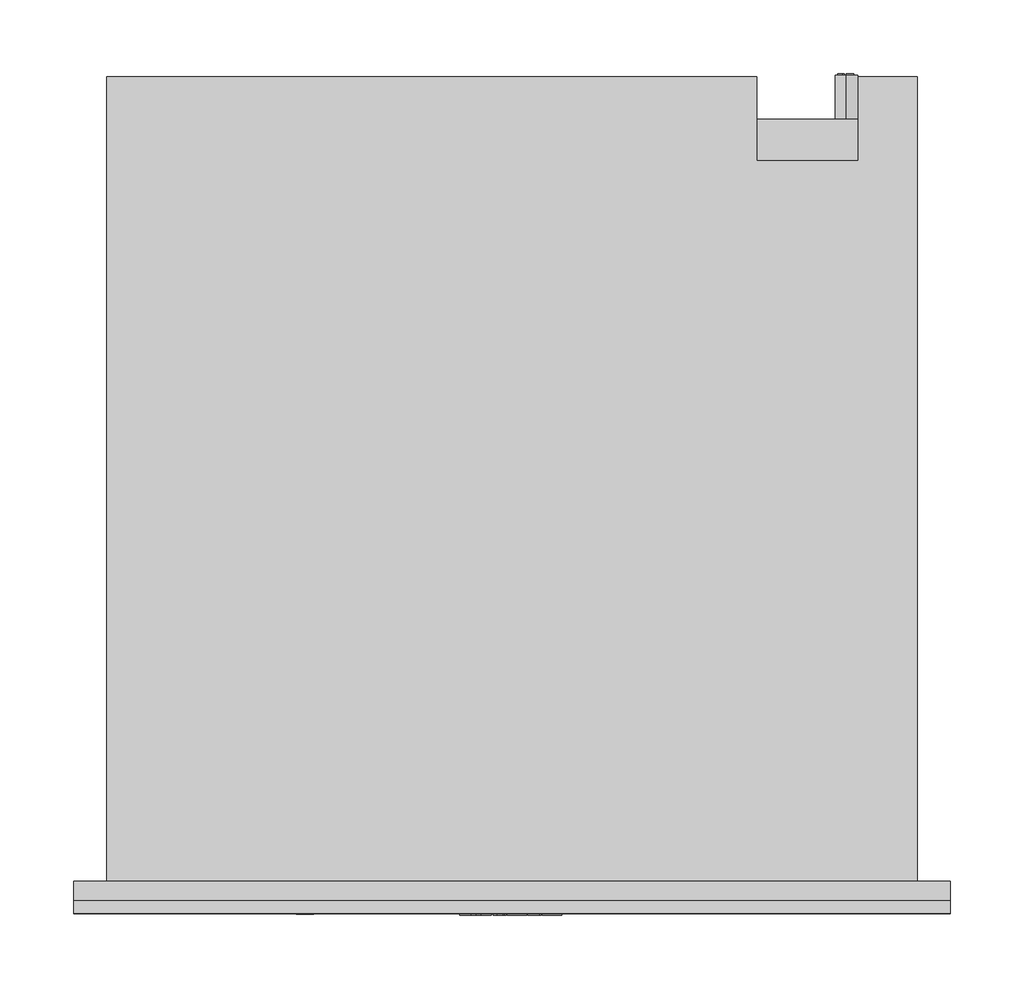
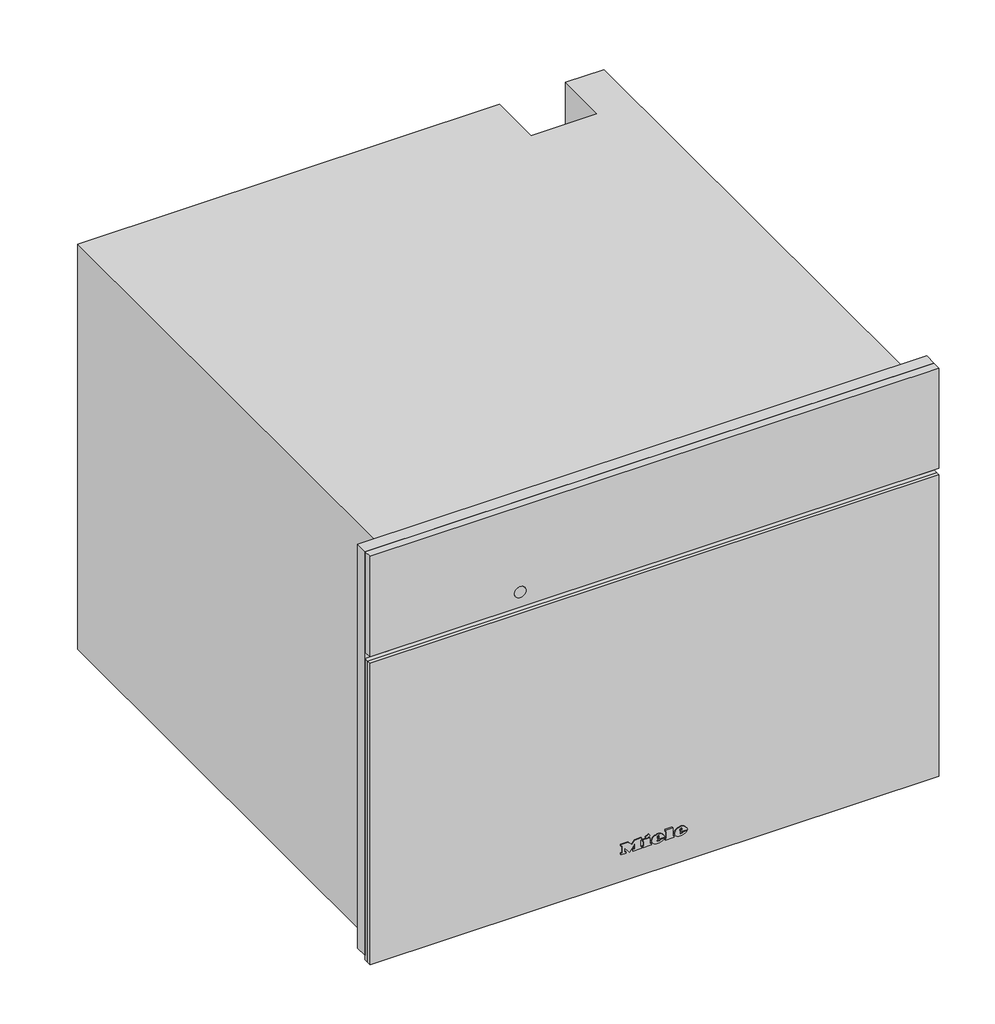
# Not in any storey: 1 proxy.
"""IFC4 building model written with IfcOpenShell, lengths in millimetres."""

import ifcopenshell
import ifcopenshell.guid

model = None  # the IFC model being written
_history = None  # IfcOwnerHistory: only IFC2X3 demands one
_inside = {}  # id of a spatial element -> (the spatial element, [elements in it])
_under = {}  # id of a project, library or spatial element -> (it, [spatial elements below it])
_declared = {}  # id of a project -> (the project, [libraries it declares])
_typed = {}  # id of a type object -> (the type object, [elements of that type])
_made_of = {}  # id of a material, layer set ... -> (it, [elements and type objects made of it])


def new_model(schema):
    """Start an empty IFC model of exactly this schema.

    Asked for "IFC4X3", IfcOpenShell would pick the latest addendum, in which some entities
    have other attributes; the version numbers below select the first issue.
    IFC2X3 requires an IfcOwnerHistory on every rooted entity: one is made here for all.
    """
    global model, _history
    if schema == "IFC4X3":
        model = ifcopenshell.file(schema_version=(4, 3, 0, 0))
    else:
        model = ifcopenshell.file(schema=schema)
    _inside.clear()
    _under.clear()
    _declared.clear()
    _typed.clear()
    _made_of.clear()
    _history = None
    if model.schema == "IFC2X3":
        org = make("IfcOrganization", Name="unknown")
        user = make(
            "IfcPersonAndOrganization",
            ThePerson=make("IfcPerson", FamilyName="unknown"),
            TheOrganization=org,
        )
        app = make(
            "IfcApplication",
            ApplicationDeveloper=org,
            Version="unknown",
            ApplicationFullName="unknown",
            ApplicationIdentifier="unknown",
        )
        _history = make(
            "IfcOwnerHistory",
            OwningUser=user,
            OwningApplication=app,
            ChangeAction="ADDED",
            CreationDate=0,
        )
    return model


def make(cls, **values):
    """One entity of the class cls with the attributes given. An attribute that is None is left unset."""
    return model.create_entity(
        cls, **{name: value for name, value in values.items() if value is not None}
    )


def rooted(cls, **values):
    """An entity with a GlobalId (a new one), such as an element, a storey or a relation."""
    return make(cls, GlobalId=ifcopenshell.guid.new(), OwnerHistory=_history, **values)


def si_unit(unit_type, name, prefix=None):
    """IfcSIUnit, for example si_unit("LENGTHUNIT", "METRE", prefix="MILLI")."""
    return make("IfcSIUnit", UnitType=unit_type, Prefix=prefix, Name=name)


def assignment(units):
    """IfcUnitAssignment: the units of a project."""
    return None if units is None else make("IfcUnitAssignment", Units=units)


def point(xyz):
    """IfcCartesianPoint."""
    return None if xyz is None else make("IfcCartesianPoint", Coordinates=xyz)


def direction(xyz):
    """IfcDirection."""
    return None if xyz is None else make("IfcDirection", DirectionRatios=xyz)


def frame(location, z_axis=None, x_axis=None):
    """IfcAxis2Placement3D, a coordinate frame: its origin and axes. An axis left out is left unset."""
    return make(
        "IfcAxis2Placement3D",
        Location=point(location),
        Axis=direction(z_axis),
        RefDirection=direction(x_axis),
    )


def frame_2d(location, x_axis=None):
    """IfcAxis2Placement2D, a coordinate frame in the plane: its origin and x axis."""
    return make(
        "IfcAxis2Placement2D", Location=point(location), RefDirection=direction(x_axis)
    )


def origin():
    """The frame at (0, 0, 0) with its axes left unset."""
    return frame((0.0, 0.0, 0.0))


def place(relative_to, where):
    """IfcLocalPlacement: puts the frame where relative to a parent placement (None: the world)."""
    return make(
        "IfcLocalPlacement", PlacementRelTo=relative_to, RelativePlacement=where
    )


def context(
    kind, dimensions, precision=None, world=None, true_north=None, identifier=None
):
    """IfcGeometricRepresentationContext, for example the 3D "Model" context."""
    return make(
        "IfcGeometricRepresentationContext",
        ContextIdentifier=identifier,
        ContextType=kind,
        CoordinateSpaceDimension=dimensions,
        Precision=precision,
        WorldCoordinateSystem=world,
        TrueNorth=true_north,
    )


def project(units=None, contexts=None):
    """IfcProject with its units and contexts."""
    return rooted(
        "IfcProject",
        Name="project",
        RepresentationContexts=contexts,
        UnitsInContext=assignment(units),
    )


def spatial(cls, under=None, at=None, **own):
    """A site, building, storey or space (cls), placed at a placement, below another one or the project."""
    s = rooted(cls, ObjectPlacement=at, **own)
    if under is not None:
        _under.setdefault(under.id(), (under, []))[1].append(s)
    return s


def polyline(points):
    """IfcPolyline through the points."""
    return make("IfcPolyline", Points=[point(p) for p in points])


def circle_curve(where, radius):
    """IfcCircle in the frame where."""
    return make("IfcCircle", Position=where, Radius=radius)


def ellipse_curve(where, semi_axis1, semi_axis2):
    """IfcEllipse in the frame where."""
    return make(
        "IfcEllipse", Position=where, SemiAxis1=semi_axis1, SemiAxis2=semi_axis2
    )


def trimmed(basis, trim1, trim2, sense, master):
    """IfcTrimmedCurve: the piece of a basis curve between two trims."""
    return make(
        "IfcTrimmedCurve",
        BasisCurve=basis,
        Trim1=trim1,
        Trim2=trim2,
        SenseAgreement=sense,
        MasterRepresentation=master,
    )


def segment(curve, same_sense, transition):
    """IfcCompositeCurveSegment."""
    return make(
        "IfcCompositeCurveSegment",
        Transition=transition,
        SameSense=same_sense,
        ParentCurve=curve,
    )


def composite_curve(segments, self_intersect=None):
    """IfcCompositeCurve: segments joined end to end."""
    return make("IfcCompositeCurve", Segments=segments, SelfIntersect=self_intersect)


def outline(outer, holes=None, kind="AREA"):
    """IfcArbitraryClosedProfileDef: a profile drawn as a closed curve; with holes, ...WithVoids."""
    if holes is None:
        return make("IfcArbitraryClosedProfileDef", ProfileType=kind, OuterCurve=outer)
    return make(
        "IfcArbitraryProfileDefWithVoids",
        ProfileType=kind,
        OuterCurve=outer,
        InnerCurves=holes,
    )


def extrude(swept, where, along, depth):
    """IfcExtrudedAreaSolid: the profile swept, set in the frame where, extruded along a direction by depth."""
    return make(
        "IfcExtrudedAreaSolid",
        SweptArea=swept,
        Position=where,
        ExtrudedDirection=direction(along),
        Depth=depth,
    )


def faces_of(points, faces, orient=None, outer=None):
    """IfcFace entities. A face is a list of loops; a loop is a list of indices into points, from 0.

    orient and outer hold one flag for each loop. By default every Orientation is true, the
    first loop of a face is its IfcFaceOuterBound and the others are IfcFaceBound.
    """
    made = []
    for i, loops in enumerate(faces):
        bounds = []
        for j, loop in enumerate(loops):
            is_outer = j == 0 if outer is None else outer[i][j]
            bounds.append(
                make(
                    "IfcFaceOuterBound" if is_outer else "IfcFaceBound",
                    Bound=make("IfcPolyLoop", Polygon=[points[k] for k in loop]),
                    Orientation=True if orient is None else orient[i][j],
                )
            )
        made.append(make("IfcFace", Bounds=bounds))
    return made


def faceted_brep(points, faces, orient=None, outer=None, voids=None):
    """IfcFacetedBrep: a solid bounded by flat faces; with voids (closed shells), ...WithVoids."""
    shared = [point(p) for p in points]
    hull = make("IfcClosedShell", CfsFaces=faces_of(shared, faces, orient, outer))
    if voids is None:
        return make("IfcFacetedBrep", Outer=hull)
    return make(
        "IfcFacetedBrepWithVoids",
        Outer=hull,
        Voids=[
            make(cls, CfsFaces=faces_of(shared, fs, o, b)) for cls, fs, o, b in voids
        ],
    )


def shape(context_of_items, identifier, shape_type, items):
    """IfcShapeRepresentation: the items that make up one representation, for example the "Body"."""
    return make(
        "IfcShapeRepresentation",
        ContextOfItems=context_of_items,
        RepresentationIdentifier=identifier,
        RepresentationType=shape_type,
        Items=items,
    )


def source(mapping_origin, context_of_items, identifier, shape_type, items):
    """IfcRepresentationMap: a shape defined once, which mapped items show again and again."""
    return make(
        "IfcRepresentationMap",
        MappingOrigin=mapping_origin,
        MappedRepresentation=shape(context_of_items, identifier, shape_type, items),
    )


def transform(
    local_origin,
    x_axis=None,
    y_axis=None,
    z_axis=None,
    scale=None,
    scale2=None,
    scale3=None,
    uniform=True,
):
    """IfcCartesianTransformationOperator3D, or its non-uniform kind. x_axis, y_axis, z_axis: its Axis1, 2, 3."""
    if uniform:
        return make(
            "IfcCartesianTransformationOperator3D",
            Axis1=direction(x_axis),
            Axis2=direction(y_axis),
            LocalOrigin=point(local_origin),
            Scale=scale,
            Axis3=direction(z_axis),
        )
    return make(
        "IfcCartesianTransformationOperator3DnonUniform",
        Axis1=direction(x_axis),
        Axis2=direction(y_axis),
        LocalOrigin=point(local_origin),
        Scale=scale,
        Axis3=direction(z_axis),
        Scale2=scale2,
        Scale3=scale3,
    )


def mapped(mapping_source, mapping_target):
    """IfcMappedItem: shows the shape of a source again, moved by a transform."""
    return make(
        "IfcMappedItem", MappingSource=mapping_source, MappingTarget=mapping_target
    )


def made_of(thing, what):
    """Note that an element or type object is made of a material, layer set ...; save() writes the relation."""
    if what is not None:
        _made_of.setdefault(what.id(), (what, []))[1].append(thing)
    return thing


def element(
    cls,
    number,
    at=None,
    inside=None,
    cuts=None,
    type_object=None,
    material=None,
    context=None,
    identifier="Body",
    shape_type=None,
    held_by="IfcProductDefinitionShape",
    body=None,
    shapes=None,
    **own,
):
    """One element of the class cls, such as IfcWall. Its Tag is "e" and its number.

    at: its placement. inside: the storey or other place that contains it. cuts: it is an
    opening in that element (IfcRelVoidsElement). A single representation is given by context,
    identifier, shape_type and body (its items); several are given by shapes. held_by: the class
    of the entity that holds the representations. save() writes the other relations.
    """
    e = rooted(cls, Tag="e%d" % number, ObjectPlacement=at, **own)
    if body is not None:
        shapes = [shape(context, identifier, shape_type, body)]
    if shapes is not None:
        e.Representation = make(held_by, Representations=shapes)
    if inside is not None:
        _inside.setdefault(inside.id(), (inside, []))[1].append(e)
    if cuts is not None:
        rooted(
            "IfcRelVoidsElement", RelatingBuildingElement=cuts, RelatedOpeningElement=e
        )
    if type_object is not None:
        _typed.setdefault(type_object.id(), (type_object, []))[1].append(e)
    return made_of(e, material)


def aggregate(whole, parts):
    """IfcRelAggregates: a whole, such as a stair, and the parts it consists of."""
    return rooted("IfcRelAggregates", RelatingObject=whole, RelatedObjects=parts)


def save(model, path):
    """Write the relations noted so far, then the file.

    IfcRelAggregates (storeys below a building ...), IfcRelContainedInSpatialStructure (elements
    in a storey), IfcRelDefinesByType, IfcRelAssociatesMaterial and IfcRelDeclares: one each for
    every whole, place, type object, material and project.
    """
    for whole, parts in _under.values():
        aggregate(whole, parts)
    for where, things in _inside.values():
        rooted(
            "IfcRelContainedInSpatialStructure",
            RelatedElements=things,
            RelatingStructure=where,
        )
    for kind, things in _typed.values():
        rooted("IfcRelDefinesByType", RelatedObjects=things, RelatingType=kind)
    for what, things in _made_of.values():
        rooted("IfcRelAssociatesMaterial", RelatedObjects=things, RelatingMaterial=what)
    for by, libraries in _declared.values():
        rooted("IfcRelDeclares", RelatingContext=by, RelatedDefinitions=libraries)
    model.write(path)


def plane_surface(at):
    """IfcPlane: the flat surface through the origin of the frame at, square to its z axis."""
    return make("IfcPlane", Position=at)


def cylinder_surface(at, radius):
    """IfcCylindricalSurface: all points at the distance radius from the z axis of the frame at."""
    return make("IfcCylindricalSurface", Position=at, Radius=radius)


def revolved_surface(curve, axis_point, axis_direction):
    """IfcSurfaceOfRevolution: the curve turned about the line through axis_point along axis_direction."""
    return make(
        "IfcSurfaceOfRevolution",
        SweptCurve=make("IfcArbitraryOpenProfileDef", ProfileType="CURVE", Curve=curve),
        AxisPosition=make("IfcAxis1Placement", Location=point(axis_point), Axis=direction(axis_direction)),
    )


def extruded_surface(curve, direction_of_extrusion, depth):
    """IfcSurfaceOfLinearExtrusion: the curve pushed along a direction by depth."""
    return make(
        "IfcSurfaceOfLinearExtrusion",
        SweptCurve=make("IfcArbitraryOpenProfileDef", ProfileType="CURVE", Curve=curve),
        ExtrudedDirection=direction(direction_of_extrusion),
        Depth=depth,
    )


def advanced_brep(points, edges, surfaces, faces):
    """IfcAdvancedBrep: a solid bounded by faces that lie on surfaces and meet in shared edges.

    An edge is (start, end): straight between two places in points (the first is 0);
    or (start, end, curve); or (start, end, curve, False) where it runs against its curve.
    A face is (place in surfaces, loops), or (place, loops, False) where it looks against
    its surface's normal. A loop lists edges by number (the first is 1), with a minus sign
    where the edge is run from its end to its start. The first loop is the outer one.
    """
    corners = [point(p) for p in points]
    vertices = [make("IfcVertexPoint", VertexGeometry=c) for c in corners]
    made = []
    for start, end, *more in edges:
        made.append(
            make(
                "IfcEdgeCurve",
                EdgeStart=vertices[start],
                EdgeEnd=vertices[end],
                EdgeGeometry=more[0] if more else make("IfcPolyline", Points=[corners[start], corners[end]]),
                SameSense=more[1] if len(more) > 1 else True,
            )
        )
    hull = []
    for where, loops, *sense in faces:
        bounds = []
        for j, loop in enumerate(loops):
            ring = [make("IfcOrientedEdge", EdgeElement=made[abs(k) - 1], Orientation=k > 0) for k in loop]
            bounds.append(
                make(
                    "IfcFaceOuterBound" if j == 0 else "IfcFaceBound",
                    Bound=make("IfcEdgeLoop", EdgeList=ring),
                    Orientation=True,
                )
            )
        hull.append(make("IfcAdvancedFace", Bounds=bounds, FaceSurface=surfaces[where], SameSense=sense[0] if sense else True))
    return make("IfcAdvancedBrep", Outer=make("IfcClosedShell", CfsFaces=hull))


def specialty_equipment_88979899(model_context):
    return source(origin(), model_context, "Body", "SolidModel", [
        extrude(outline(polyline([(455.0, 297.5), (455.0, -297.5), (9.0, -297.5), (9.0, 297.5), (455.0, 297.5)]), holes=[polyline([(344.0, -272.5), (344.0, 272.5), (27.0, 272.5), (27.0, -272.5), (344.0, -272.5)])]), frame((0.0, -13.0, 0.0), z_axis=(0.0, 1.0, 0.0), x_axis=(0.0, 0.0, 1.0)), (0.0, 0.0, 1.0), 13.0),
        advanced_brep(
        [(227.0, 547.0, 255.5), (227.0, 547.0, 240.5), (221.4098301, 547.0, 243.0), (225.5, 547.0, 243.0), (225.5, 547.0, 253.0), (224.4955303, 547.0, 253.0), (224.4955303, 547.0, 244.0), (221.0315043, 547.0, 244.0), (221.0315043, 547.0, 243.4582978), (232.0, 547.0, 243.0), (232.0, 547.0, 253.0), (227.0, 547.0, 253.0), (227.0, 547.0, 252.0), (231.0, 547.0, 252.0), (231.0, 547.0, 248.5), (228.0, 547.0, 248.5), (228.0, 547.0, 247.5), (231.0, 547.0, 247.5), (231.0, 547.0, 244.0), (227.0, 547.0, 244.0), (227.0, 547.0, 243.0), (227.0, 517.0, 240.5), (227.0, 517.0, 255.5), (232.0, 548.0, 253.0), (232.0, 548.0, 243.0), (227.0, 548.0, 243.0), (227.0, 548.0, 244.0), (231.0, 548.0, 244.0), (231.0, 548.0, 247.5), (228.0, 548.0, 247.5), (228.0, 548.0, 248.5), (231.0, 548.0, 248.5), (231.0, 548.0, 252.0), (227.0, 548.0, 252.0), (227.0, 548.0, 253.0), (225.5, 548.0, 243.0), (221.0315043, 548.0, 243.0), (221.0315043, 548.0, 244.0), (224.4955303, 548.0, 244.0), (224.4955303, 548.0, 253.0), (225.5, 548.0, 253.0), (221.0315043, 547.0, 243.0)],
        [
            (0, 1, circle_curve(frame((227.0, 547.0, 248.0), z_axis=(0.0, 1.0, 0.0), x_axis=(0.0, 0.0, 1.0)), 7.5)),
            (1, 2, circle_curve(frame((227.0, 547.0, 248.0), z_axis=(0.0, 1.0, 0.0), x_axis=(0.0, 0.0, 1.0)), 7.5)),
            (2, 3),
            (3, 4),
            (4, 5),
            (5, 6),
            (6, 7),
            (7, 8),
            (8, 0, circle_curve(frame((227.0, 547.0, 248.0), z_axis=(0.0, 1.0, 0.0), x_axis=(0.0, 0.0, 1.0)), 7.5)),
            (9, 10),
            (10, 11),
            (11, 12),
            (12, 13),
            (13, 14),
            (14, 15),
            (15, 16),
            (16, 17),
            (17, 18),
            (18, 19),
            (19, 20),
            (20, 9),
            (21, 22, circle_curve(frame((227.0, 517.0, 248.0), z_axis=(0.0, -1.0, 0.0), x_axis=(0.0, 0.0, 1.0)), 7.5)),
            (22, 21, circle_curve(frame((227.0, 517.0, 248.0), z_axis=(0.0, -1.0, 0.0), x_axis=(0.0, 0.0, 1.0)), 7.5)),
            (0, 22),
            (21, 1),
            (8, 2, circle_curve(frame((227.0, 547.0, 248.0), z_axis=(0.0, -1.0, 0.0), x_axis=(0.0, 0.0, 1.0)), 7.5)),
            (23, 24),
            (24, 25),
            (25, 26),
            (26, 27),
            (27, 28),
            (28, 29),
            (29, 30),
            (30, 31),
            (31, 32),
            (32, 33),
            (33, 34),
            (34, 23),
            (35, 36),
            (36, 37),
            (37, 38),
            (38, 39),
            (39, 40),
            (40, 35),
            (8, 41),
            (41, 2),
            (23, 10),
            (9, 24),
            (20, 25),
            (19, 26),
            (18, 27),
            (17, 28),
            (16, 29),
            (15, 30),
            (14, 31),
            (13, 32),
            (12, 33),
            (11, 34),
            (35, 3),
            (41, 36),
            (7, 37),
            (6, 38),
            (5, 39),
            (4, 40),
        ],
        [
            plane_surface(frame((227.0, 547.0, 255.5), z_axis=(0.0, 1.0, 0.0), x_axis=(1.0, 0.0, 0.0))),
            plane_surface(frame((227.0, 517.0, 255.5), z_axis=(0.0, -1.0, 0.0), x_axis=(-1.0, 0.0, 0.0))),
            cylinder_surface(frame((227.0, 547.0, 248.0), z_axis=(0.0, -1.0, 0.0), x_axis=(0.0, 0.0, 1.0)), 7.5),
            plane_surface(frame((232.0, 548.0, 253.0), z_axis=(0.0, 1.0, 0.0), x_axis=(0.0, 0.0, -1.0))),
            plane_surface(frame((232.0, 547.0, 253.0), z_axis=(0.0, -1.0, 0.0), x_axis=(0.0, 0.0, 1.0))),
            plane_surface(frame((232.0, 548.0, 253.0), z_axis=(1.0, 0.0, 0.0), x_axis=(0.0, -1.0, 0.0))),
            plane_surface(frame((232.0, 548.0, 243.0), z_axis=(0.0, 0.0, -1.0), x_axis=(0.0, -1.0, 0.0))),
            plane_surface(frame((227.0, 548.0, 243.0), z_axis=(-1.0, 0.0, 0.0), x_axis=(0.0, -1.0, 0.0))),
            plane_surface(frame((227.0, 548.0, 244.0), z_axis=(0.0, 0.0, 1.0), x_axis=(0.0, -1.0, 0.0))),
            plane_surface(frame((231.0, 548.0, 244.0), z_axis=(-1.0, 0.0, 0.0), x_axis=(0.0, -1.0, 0.0))),
            plane_surface(frame((231.0, 548.0, 247.5), z_axis=(0.0, 0.0, -1.0), x_axis=(0.0, -1.0, 0.0))),
            plane_surface(frame((228.0, 548.0, 247.5), z_axis=(-1.0, 0.0, 0.0), x_axis=(0.0, -1.0, 0.0))),
            plane_surface(frame((228.0, 548.0, 248.5), z_axis=(0.0, 0.0, 1.0), x_axis=(0.0, -1.0, 0.0))),
            plane_surface(frame((231.0, 548.0, 248.5), z_axis=(-1.0, 0.0, 0.0), x_axis=(0.0, -1.0, 0.0))),
            plane_surface(frame((231.0, 548.0, 252.0), z_axis=(0.0, 0.0, -1.0), x_axis=(0.0, -1.0, 0.0))),
            plane_surface(frame((227.0, 548.0, 252.0), z_axis=(-1.0, 0.0, 0.0), x_axis=(0.0, -1.0, 0.0))),
            plane_surface(frame((227.0, 548.0, 253.0), z_axis=(0.0, 0.0, 1.0), x_axis=(0.0, -1.0, 0.0))),
            plane_surface(frame((225.5, 548.0, 243.0), z_axis=(0.0, 0.0, -1.0), x_axis=(0.0, -1.0, 0.0))),
            plane_surface(frame((221.0315043, 548.0, 243.0), z_axis=(-1.0, 0.0, 0.0), x_axis=(0.0, -1.0, 0.0))),
            plane_surface(frame((221.0315043, 548.0, 244.0), z_axis=(0.0, 0.0, 1.0), x_axis=(0.0, -1.0, 0.0))),
            plane_surface(frame((224.4955303, 548.0, 244.0), z_axis=(-1.0, 0.0, 0.0), x_axis=(0.0, -1.0, 0.0))),
            plane_surface(frame((224.4955303, 548.0, 253.0), z_axis=(0.0, 0.0, 1.0), x_axis=(0.0, -1.0, 0.0))),
            plane_surface(frame((225.5, 548.0, 253.0), z_axis=(1.0, 0.0, 0.0), x_axis=(0.0, -1.0, 0.0))),
        ],
        [
            (0, [[1, 2, 3, 4, 5, 6, 7, 8, 9], [10, 11, 12, 13, 14, 15, 16, 17, 18, 19, 20, 21]]),
            (1, [[22, 23]]),
            (2, [[-1, 24, -22, 25]]),
            (2, [[-23, -24, -9, 26, -2, -25]]),
            (3, [[27, 28, 29, 30, 31, 32, 33, 34, 35, 36, 37, 38]]),
            (3, [[39, 40, 41, 42, 43, 44]]),
            (4, [[45, 46, -26]]),
            (5, [[-27, 47, -10, 48]]),
            (6, [[-28, -48, -21, 49]]),
            (7, [[-29, -49, -20, 50]]),
            (8, [[-30, -50, -19, 51]]),
            (9, [[-31, -51, -18, 52]]),
            (10, [[-32, -52, -17, 53]]),
            (11, [[-33, -53, -16, 54]]),
            (12, [[-34, -54, -15, 55]]),
            (13, [[-35, -55, -14, 56]]),
            (14, [[-36, -56, -13, 57]]),
            (15, [[-37, -57, -12, 58]]),
            (16, [[-38, -58, -11, -47]]),
            (17, [[-39, 59, -3, -46, 60]]),
            (18, [[-40, -60, -45, -8, 61]]),
            (19, [[-41, -61, -7, 62]]),
            (20, [[-42, -62, -6, 63]]),
            (21, [[-43, -63, -5, 64]]),
            (22, [[-44, -64, -4, -59]]),
        ],
    ),
        faceted_brep([(-275.0, 546.0, 0.0), (-275.0, 546.0, 448.0), (166.0, 546.0, 448.0), (166.0, 546.0, 0.0), (235.0, 546.0, 448.0), (275.0, 546.0, 448.0), (275.0, 546.0, 338.0), (235.0, 546.0, 338.0), (275.0, 0.0, 448.0), (-275.0, 0.0, 448.0), (-275.0, 0.0, 0.0), (275.0, 0.0, 0.0), (-272.5, 0.0, 344.0), (272.5, 0.0, 344.0), (272.5, 0.0, 27.0), (-272.5, 0.0, 27.0), (235.0, 489.0, 448.0), (166.0, 489.0, 448.0), (166.0, 517.0, 0.0), (275.0, 517.0, 0.0), (275.0, 517.0, 338.0), (272.5, 17.0, 344.0), (-272.5, 17.0, 344.0), (-272.5, 17.0, 27.0), (272.5, 17.0, 27.0), (231.0, 17.0, 307.0), (231.0, 17.0, 65.0), (-231.0, 17.0, 65.0), (-231.0, 17.0, 307.0), (231.0, 411.0, 307.0), (-231.0, 411.0, 307.0), (-231.0, 411.0, 65.0), (231.0, 411.0, 65.0), (235.0, 489.0, 337.0), (166.0, 489.0, 337.0), (166.0, 517.0, 337.0), (235.0, 517.0, 337.0), (235.0, 517.0, 338.0)], [[[0, 1, 2, 3]], [[4, 5, 6, 7]], [[8, 9, 10, 11], [12, 13, 14, 15]], [[9, 8, 5, 4, 16, 17, 2, 1]], [[1, 0, 10, 9]], [[11, 10, 0, 3, 18, 19]], [[8, 11, 19, 20, 6, 5]], [[21, 22, 23, 24], [25, 26, 27, 28]], [[22, 21, 13, 12]], [[23, 22, 12, 15]], [[24, 23, 15, 14]], [[21, 24, 14, 13]], [[29, 30, 31, 32]], [[29, 32, 26, 25]], [[32, 31, 27, 26]], [[31, 30, 28, 27]], [[30, 29, 25, 28]], [[16, 33, 34, 17]], [[17, 34, 35, 18, 3, 2]], [[34, 33, 36, 35]], [[33, 16, 4, 7, 37, 36]], [[37, 20, 19, 18, 35, 36]], [[20, 37, 7, 6]]]),
        advanced_brep(
        [(26.2998, -23.0, 36.7018), (26.2998, -23.0, 37.8532), (33.9264, -23.0, 37.8532), (20.6568, -23.0, 37.8532), (23.7918, -23.0, 34.0), (33.7326, -23.0, 36.7018), (30.2898, -23.0, 36.7018), (27.5766, -23.0, 35.425), (26.2998, -23.0, 39.3124), (26.2998, -23.0, 40.555), (28.2492, -23.0, 40.555), (28.2492, -23.0, 39.3124), (26.2998, -22.0, 36.7018), (27.5766, -22.0, 35.425), (30.2898, -22.0, 36.7018), (33.7326, -22.0, 36.7018), (23.7918, -22.0, 34.0), (20.6568, -22.0, 37.8532), (33.9264, -22.0, 37.8532), (26.2998, -22.0, 37.8532), (26.2998, -22.0, 39.3124), (28.2492, -22.0, 39.3124), (28.2492, -22.0, 40.555), (26.2998, -22.0, 40.555)],
        [
            (0, 1),
            (1, 2),
            (2, 3, ellipse_curve(frame((27.2916, -23.0, 37.8532), z_axis=(0.0, -1.0, 0.0), x_axis=(-1.0, 0.0, 0.0)), 6.6348, 5.4834)),
            (3, 4, circle_curve(frame((25.0686622, -23.0, 38.2408), z_axis=(0.0, -1.0, 0.0), x_axis=(0.0, 0.0, -1.0)), 4.4288556)),
            (4, 5, circle_curve(frame((27.1587808, -23.0, 41.2504), z_axis=(0.0, -1.0, 0.0), x_axis=(0.0, 0.0, -1.0)), 7.9940516)),
            (5, 6),
            (6, 7, circle_curve(frame((28.1338588, -23.0, 37.762), z_axis=(0.0, 1.0, 0.0), x_axis=(0.0, 0.0, -1.0)), 2.4025208)),
            (7, 0, circle_curve(frame((27.5766, -23.0, 36.7018), z_axis=(0.0, 1.0, 0.0), x_axis=(0.0, 0.0, -1.0)), 1.2768)),
            (8, 9),
            (9, 10, circle_curve(frame((27.2745, -23.0, 40.555), z_axis=(0.0, 1.0, 0.0), x_axis=(0.0, 0.0, -1.0)), 0.9747)),
            (10, 11),
            (11, 8),
            (12, 13, circle_curve(frame((27.5766, -22.0, 36.7018), z_axis=(0.0, -1.0, 0.0), x_axis=(0.0, 0.0, -1.0)), 1.2768)),
            (13, 14, circle_curve(frame((28.1338588, -22.0, 37.762), z_axis=(0.0, -1.0, 0.0), x_axis=(0.0, 0.0, -1.0)), 2.4025208)),
            (14, 15),
            (15, 16, circle_curve(frame((27.1587808, -22.0, 41.2504), z_axis=(0.0, 1.0, 0.0), x_axis=(0.0, 0.0, -1.0)), 7.9940516)),
            (16, 17, circle_curve(frame((25.0686622, -22.0, 38.2408), z_axis=(0.0, 1.0, 0.0), x_axis=(0.0, 0.0, -1.0)), 4.4288556)),
            (17, 18, ellipse_curve(frame((27.2916, -22.0, 37.8532), z_axis=(0.0, 1.0, 0.0), x_axis=(-1.0, 0.0, 0.0)), 6.6348, 5.4834)),
            (18, 19),
            (19, 12),
            (20, 21),
            (21, 22),
            (22, 23, circle_curve(frame((27.2745, -22.0, 40.555), z_axis=(0.0, -1.0, 0.0), x_axis=(0.0, 0.0, -1.0)), 0.9747)),
            (23, 20),
            (0, 12),
            (19, 1),
            (18, 2),
            (5, 15),
            (14, 6),
            (17, 3),
            (13, 7),
            (16, 4),
            (8, 20),
            (23, 9),
            (22, 10),
            (21, 11),
        ],
        [
            plane_surface(frame((26.2998, -23.0, 37.8532), z_axis=(0.0, -1.0, 0.0), x_axis=(0.0, 0.0, 1.0))),
            plane_surface(frame((26.2998, -22.0, 37.8532), z_axis=(0.0, 1.0, 0.0), x_axis=(0.0, 0.0, -1.0))),
            plane_surface(frame((26.2998, -23.0, 36.7018), z_axis=(1.0, 0.0, 0.0), x_axis=(0.0, 1.0, 0.0))),
            plane_surface(frame((26.2998, -23.0, 37.8532), z_axis=(0.0, 0.0, -1.0), x_axis=(0.0, 1.0, 0.0))),
            plane_surface(frame((33.7326, -23.0, 36.7018), z_axis=(0.0, 0.0, 1.0), x_axis=(0.0, 1.0, 0.0))),
            extruded_surface(trimmed(ellipse_curve(frame((27.2916, -21.0, 37.8532), z_axis=(0.0, -1.0, 0.0), x_axis=(-1.0, 0.0, 0.0)), 6.6348, 5.4834), [point((33.9264, -21.0, 37.8532))], [point((20.6568, -21.0, 37.8532))], True, "CARTESIAN"), (0.0, -1.0, 0.0), 1.0),
            revolved_surface(polyline([(28.1338588, -22.0, 35.3594792), (28.1338588, -23.0, 35.3594792)]), (28.1338588, -22.0, 37.762), (0.0, 1.0, 0.0)),
            revolved_surface(polyline([(27.5766, -22.0, 35.425), (27.5766, -23.0, 35.425)]), (27.5766, -22.0, 36.7018), (0.0, 1.0, 0.0)),
            cylinder_surface(frame((25.0686622, -22.0, 38.2408), z_axis=(0.0, -1.0, 0.0), x_axis=(0.0, 0.0, -1.0)), 4.4288556),
            cylinder_surface(frame((27.1587808, -22.0, 41.2504), z_axis=(0.0, -1.0, 0.0), x_axis=(0.0, 0.0, -1.0)), 7.9940516),
            plane_surface(frame((26.2998, -23.0, 39.3124), z_axis=(1.0, 0.0, 0.0), x_axis=(0.0, 1.0, 0.0))),
            revolved_surface(polyline([(27.2745, -22.0, 39.5803), (27.2745, -23.0, 39.5803)]), (27.2745, -22.0, 40.555), (0.0, 1.0, 0.0)),
            plane_surface(frame((28.2492, -23.0, 40.555), z_axis=(-1.0, 0.0, 0.0), x_axis=(0.0, 1.0, 0.0))),
            plane_surface(frame((28.2492, -23.0, 39.3124), z_axis=(0.0, 0.0, 1.0), x_axis=(0.0, 1.0, 0.0))),
        ],
        [
            (0, [[1, 2, 3, 4, 5, 6, 7, 8], [9, 10, 11, 12]]),
            (1, [[13, 14, 15, 16, 17, 18, 19, 20], [21, 22, 23, 24]]),
            (2, [[-1, 25, -20, 26]]),
            (3, [[-2, -26, -19, 27]]),
            (4, [[-6, 28, -15, 29]]),
            (5, [[-3, -27, -18, 30]]),
            (6, [[-7, -29, -14, 31]]),
            (7, [[-8, -31, -13, -25]]),
            (8, [[-4, -30, -17, 32]]),
            (9, [[-5, -32, -16, -28]]),
            (10, [[-9, 33, -24, 34]]),
            (11, [[-10, -34, -23, 35]]),
            (12, [[-11, -35, -22, 36]]),
            (13, [[-12, -36, -21, -33]]),
        ],
    ),
        advanced_brep(
        [(2.508, -23.0, 36.7018), (2.508, -23.0, 37.8532), (10.1346, -23.0, 37.8532), (-3.135, -23.0, 37.8532), (0.0, -23.0, 34.0), (9.9408, -23.0, 36.7018), (6.498, -23.0, 36.7018), (3.7848, -23.0, 35.425), (2.508, -23.0, 39.3124), (2.508, -23.0, 40.555), (4.4574, -23.0, 40.555), (4.4574, -23.0, 39.3124), (2.508, -22.0, 36.7018), (3.7848, -22.0, 35.425), (6.498, -22.0, 36.7018), (9.9408, -22.0, 36.7018), (0.0, -22.0, 34.0), (-3.135, -22.0, 37.8532), (10.1346, -22.0, 37.8532), (2.508, -22.0, 37.8532), (2.508, -22.0, 39.3124), (4.4574, -22.0, 39.3124), (4.4574, -22.0, 40.555), (2.508, -22.0, 40.555)],
        [
            (0, 1),
            (1, 2),
            (2, 3, ellipse_curve(frame((3.4998, -23.0, 37.8532), z_axis=(0.0, -1.0, 0.0), x_axis=(-1.0, 0.0, 0.0)), 6.6348, 5.4834)),
            (3, 4, circle_curve(frame((1.2768622, -23.0, 38.2408), z_axis=(0.0, -1.0, 0.0), x_axis=(0.0, 0.0, -1.0)), 4.4288556)),
            (4, 5, circle_curve(frame((3.3669808, -23.0, 41.2504), z_axis=(0.0, -1.0, 0.0), x_axis=(0.0, 0.0, -1.0)), 7.9940516)),
            (5, 6),
            (6, 7, circle_curve(frame((4.3420588, -23.0, 37.762), z_axis=(0.0, 1.0, 0.0), x_axis=(0.0, 0.0, -1.0)), 2.4025208)),
            (7, 0, circle_curve(frame((3.7848, -23.0, 36.7018), z_axis=(0.0, 1.0, 0.0), x_axis=(0.0, 0.0, -1.0)), 1.2768)),
            (8, 9),
            (9, 10, circle_curve(frame((3.4827, -23.0, 40.555), z_axis=(0.0, 1.0, 0.0), x_axis=(0.0, 0.0, -1.0)), 0.9747)),
            (10, 11),
            (11, 8),
            (12, 13, circle_curve(frame((3.7848, -22.0, 36.7018), z_axis=(0.0, -1.0, 0.0), x_axis=(0.0, 0.0, -1.0)), 1.2768)),
            (13, 14, circle_curve(frame((4.3420588, -22.0, 37.762), z_axis=(0.0, -1.0, 0.0), x_axis=(0.0, 0.0, -1.0)), 2.4025208)),
            (14, 15),
            (15, 16, circle_curve(frame((3.3669808, -22.0, 41.2504), z_axis=(0.0, 1.0, 0.0), x_axis=(0.0, 0.0, -1.0)), 7.9940516)),
            (16, 17, circle_curve(frame((1.2768622, -22.0, 38.2408), z_axis=(0.0, 1.0, 0.0), x_axis=(0.0, 0.0, -1.0)), 4.4288556)),
            (17, 18, ellipse_curve(frame((3.4998, -22.0, 37.8532), z_axis=(0.0, 1.0, 0.0), x_axis=(-1.0, 0.0, 0.0)), 6.6348, 5.4834)),
            (18, 19),
            (19, 12),
            (20, 21),
            (21, 22),
            (22, 23, circle_curve(frame((3.4827, -22.0, 40.555), z_axis=(0.0, -1.0, 0.0), x_axis=(0.0, 0.0, -1.0)), 0.9747)),
            (23, 20),
            (0, 12),
            (19, 1),
            (18, 2),
            (5, 15),
            (14, 6),
            (17, 3),
            (13, 7),
            (16, 4),
            (8, 20),
            (23, 9),
            (22, 10),
            (21, 11),
        ],
        [
            plane_surface(frame((2.508, -23.0, 37.8532), z_axis=(0.0, -1.0, 0.0), x_axis=(0.0, 0.0, 1.0))),
            plane_surface(frame((2.508, -22.0, 37.8532), z_axis=(0.0, 1.0, 0.0), x_axis=(0.0, 0.0, -1.0))),
            plane_surface(frame((2.508, -23.0, 36.7018), z_axis=(1.0, 0.0, 0.0), x_axis=(0.0, 1.0, 0.0))),
            plane_surface(frame((2.508, -23.0, 37.8532), z_axis=(0.0, 0.0, -1.0), x_axis=(0.0, 1.0, 0.0))),
            plane_surface(frame((9.9408, -23.0, 36.7018), z_axis=(0.0, 0.0, 1.0), x_axis=(0.0, 1.0, 0.0))),
            extruded_surface(trimmed(ellipse_curve(frame((3.4998, -21.0, 37.8532), z_axis=(0.0, -1.0, 0.0), x_axis=(-1.0, 0.0, 0.0)), 6.6348, 5.4834), [point((10.1346, -21.0, 37.8532))], [point((-3.135, -21.0, 37.8532))], True, "CARTESIAN"), (0.0, -1.0, 0.0), 1.0),
            revolved_surface(polyline([(4.3420588, -22.0, 35.3594792), (4.3420588, -23.0, 35.3594792)]), (4.3420588, -22.0, 37.762), (0.0, 1.0, 0.0)),
            revolved_surface(polyline([(3.7848, -22.0, 35.425), (3.7848, -23.0, 35.425)]), (3.7848, -22.0, 36.7018), (0.0, 1.0, 0.0)),
            cylinder_surface(frame((1.2768622, -22.0, 38.2408), z_axis=(0.0, -1.0, 0.0), x_axis=(0.0, 0.0, -1.0)), 4.4288556),
            cylinder_surface(frame((3.3669808, -22.0, 41.2504), z_axis=(0.0, -1.0, 0.0), x_axis=(0.0, 0.0, -1.0)), 7.9940516),
            plane_surface(frame((2.508, -23.0, 39.3124), z_axis=(1.0, 0.0, 0.0), x_axis=(0.0, 1.0, 0.0))),
            revolved_surface(polyline([(3.4827, -22.0, 39.5803), (3.4827, -23.0, 39.5803)]), (3.4827, -22.0, 40.555), (0.0, 1.0, 0.0)),
            plane_surface(frame((4.4574, -23.0, 40.555), z_axis=(-1.0, 0.0, 0.0), x_axis=(0.0, 1.0, 0.0))),
            plane_surface(frame((4.4574, -23.0, 39.3124), z_axis=(0.0, 0.0, 1.0), x_axis=(0.0, 1.0, 0.0))),
        ],
        [
            (0, [[1, 2, 3, 4, 5, 6, 7, 8], [9, 10, 11, 12]]),
            (1, [[13, 14, 15, 16, 17, 18, 19, 20], [21, 22, 23, 24]]),
            (2, [[-1, 25, -20, 26]]),
            (3, [[-2, -26, -19, 27]]),
            (4, [[-6, 28, -15, 29]]),
            (5, [[-3, -27, -18, 30]]),
            (6, [[-7, -29, -14, 31]]),
            (7, [[-8, -31, -13, -25]]),
            (8, [[-4, -30, -17, 32]]),
            (9, [[-5, -32, -16, -28]]),
            (10, [[-9, 33, -24, 34]]),
            (11, [[-10, -34, -23, 35]]),
            (12, [[-11, -35, -22, 36]]),
            (13, [[-12, -36, -21, -33]]),
        ],
    ),
        extrude(outline(polyline([(44.7274, -9.9522), (42.8806, -9.0858), (44.6818, -5.2212), (46.5286, -6.0762), (44.7274, -9.9522)])), frame((0.0, -23.0, 0.0), z_axis=(0.0, 1.0, 0.0), x_axis=(0.0, 0.0, 1.0)), (0.0, 0.0, 1.0), 1.0),
        extrude(outline(polyline([(42.6298, -12.768), (40.5892, -12.768), (40.5892, -11.4114), (35.9152, -11.4114), (35.9152, -12.768), (34.0, -12.768), (34.0, -3.7734), (35.9152, -3.7734), (35.9152, -5.0958), (42.6298, -5.0958), (42.6298, -12.768)])), frame((0.0, -23.0, 0.0), z_axis=(0.0, 1.0, 0.0), x_axis=(0.0, 0.0, 1.0)), (0.0, 0.0, 1.0), 1.0),
        extrude(outline(polyline([(43.5418, 10.773), (43.5418, 12.141), (35.9152, 12.141), (35.9152, 10.773), (34.0, 10.773), (34.0, 20.0184), (35.9152, 20.0184), (35.9152, 18.6162), (45.4, 18.6162), (45.4, 10.773), (43.5418, 10.773)])), frame((0.0, -23.0, 0.0), z_axis=(0.0, 1.0, 0.0), x_axis=(0.0, 0.0, 1.0)), (0.0, 0.0, 1.0), 1.0),
        extrude(outline(polyline([(43.5418, -35.4882), (43.5418, -34.1088), (35.9152, -34.1088), (35.9152, -35.4882), (34.0, -35.4882), (34.0, -30.4722), (35.9152, -30.4722), (35.9152, -31.8402), (40.7429247, -31.8402), (34.0, -26.7444), (40.9402223, -21.6258), (35.9152, -21.6258), (35.9152, -23.028), (34.0, -23.028), (34.0, -13.9308), (35.9152, -13.9308), (35.9152, -15.3786), (43.5418, -15.3786), (43.5418, -13.9308), (45.4, -13.9308), (45.4, -20.8734), (41.125, -24.2022), (45.4, -27.5424), (45.4, -35.4882), (43.5418, -35.4882)])), frame((0.0, -23.0, 0.0), z_axis=(0.0, 1.0, 0.0), x_axis=(0.0, 0.0, 1.0)), (0.0, 0.0, 1.0), 1.0),
        extrude(outline(polyline([(297.5, -22.0), (-297.5, -22.0), (-297.5, -13.0), (297.5, -13.0), (297.5, -22.0)])), frame((0.0, 0.0, 344.0), z_axis=(0.0, 0.0, 1.0), x_axis=(1.0, 0.0, 0.0)), (0.0, 0.0, 1.0), 111.0),
        extrude(outline(composite_curve([segment(trimmed(circle_curve(frame_2d((361.0, -140.5745637)), 6.0), [point((361.0, -146.5745637))], [point((361.0, -134.5745637))], False, "CARTESIAN"), True, "CONTINUOUS"), segment(trimmed(circle_curve(frame_2d((361.0, -140.5745637)), 6.0), [point((361.0, -134.5745637))], [point((361.0, -146.5745637))], False, "CARTESIAN"), True, "CONTINUOUS")], self_intersect=False)), frame((0.0, -22.5, 0.0), z_axis=(0.0, 1.0, 0.0), x_axis=(0.0, 0.0, 1.0)), (0.0, 0.0, 1.0), 1.0),
        extrude(outline(polyline([(-297.5, -18.0), (297.5, -18.0), (297.5, -22.0), (-297.5, -22.0), (-297.5, -18.0)])), frame((0.0, 0.0, 4.0), z_axis=(0.0, 0.0, 1.0), x_axis=(1.0, 0.0, 0.0)), (0.0, 0.0, 1.0), 333.0),
        extrude(outline(polyline([(297.5, -18.0), (-297.5, -18.0), (-297.5, -13.0), (297.5, -13.0), (297.5, -18.0)])), frame((0.0, 0.0, 4.0), z_axis=(0.0, 0.0, 1.0), x_axis=(1.0, 0.0, 0.0)), (0.0, 0.0, 1.0), 333.0),
    ])


model = new_model("IFC4")

# Units and contexts
model_context = context("Model", 3, world=origin())
ifc_project = project(units=[si_unit("LENGTHUNIT", "METRE", prefix="MILLI")], contexts=[model_context])

# Site, building
site = spatial("IfcSite", under=ifc_project)
building = spatial("IfcBuilding", under=site)

# Proxy
placement = place(None, origin())
specialty_equipment_shape = specialty_equipment_88979899(model_context)
element("IfcBuildingElementProxy", 1, Name="12097960_RU_DGC7840HCXPro_GRGR : 23784078_RU_12097960_DGC7840HCXPro_GRGR", ObjectType="12097960_RU_DGC7840HCXPro_GRGR : 23784078_RU_12097960_DGC7840HCXPro_GRGR", at=placement, inside=building, context=model_context, shape_type="MappedRepresentation", body=[
    mapped(specialty_equipment_shape, transform((0.0, 0.0, 0.0), x_axis=(1.0, 0.0, 0.0), y_axis=(0.0, 1.0, 0.0), z_axis=(0.0, 0.0, 1.0))),
])

save(model, "model.ifc")
